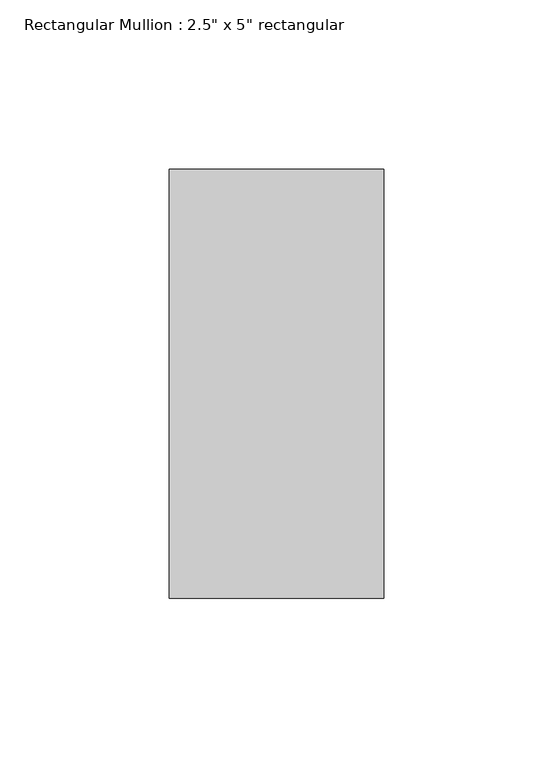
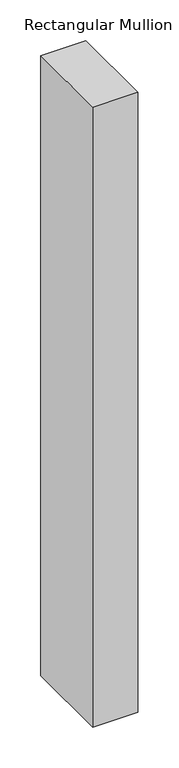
"""IFC4 building model written with IfcOpenShell, lengths in millimetres: member geometry."""

from ifc_helpers import new_model, si_unit, frame, origin, place, context, project, spatial, polyline, outline, extrude, source, transform, mapped, element, save


def member_75b1f528(model_context):
    return source(origin(), model_context, "Body", "SweptSolid", [
        extrude(outline(polyline([(31.75, 63.5), (31.75, -63.5), (-31.75, -63.5), (-31.75, 63.5), (31.75, 63.5)])), frame((0.0, 0.0, -925.0176127), z_axis=(0.0, 0.0, 1.0), x_axis=(1.0, 0.0, 0.0)), (0.0, 0.0, 1.0), 925.0176127),
    ])


if __name__ == "__main__":
    model = new_model("IFC4")
    model_context = context("Model", 3, world=origin())
    ifc_project = project(units=[si_unit("LENGTHUNIT", "METRE", prefix="MILLI")], contexts=[model_context])
    site = spatial("IfcSite", under=ifc_project)
    building = spatial("IfcBuilding", under=site)
    placement = place(None, origin())
    member_shape = member_75b1f528(model_context)
    element("IfcMember", 1, ObjectType="Rectangular Mullion : 2.5\" x 5\" rectangular", at=placement, inside=building, context=model_context, shape_type="MappedRepresentation", body=[
        mapped(member_shape, transform((0.0, 0.0, 0.0), x_axis=(1.0, 0.0, 0.0), y_axis=(0.0, 1.0, 0.0), z_axis=(0.0, 0.0, 1.0))),
    ])
    save(model, "model.ifc")
